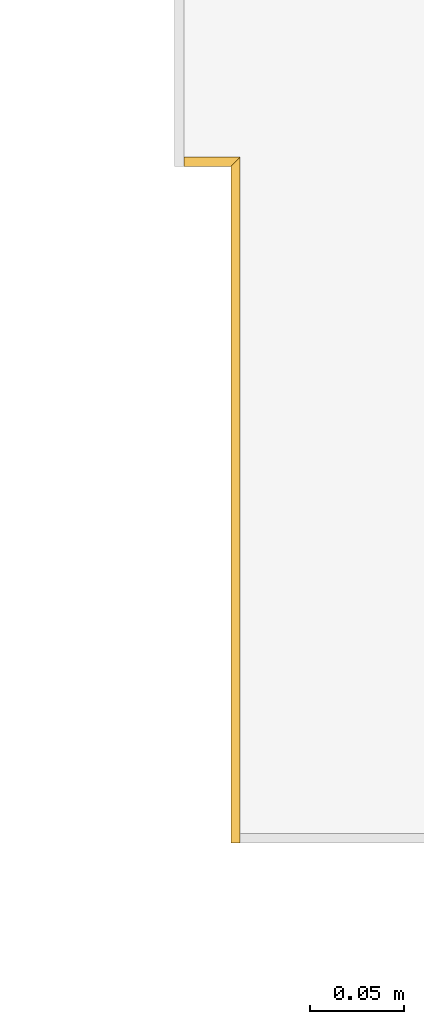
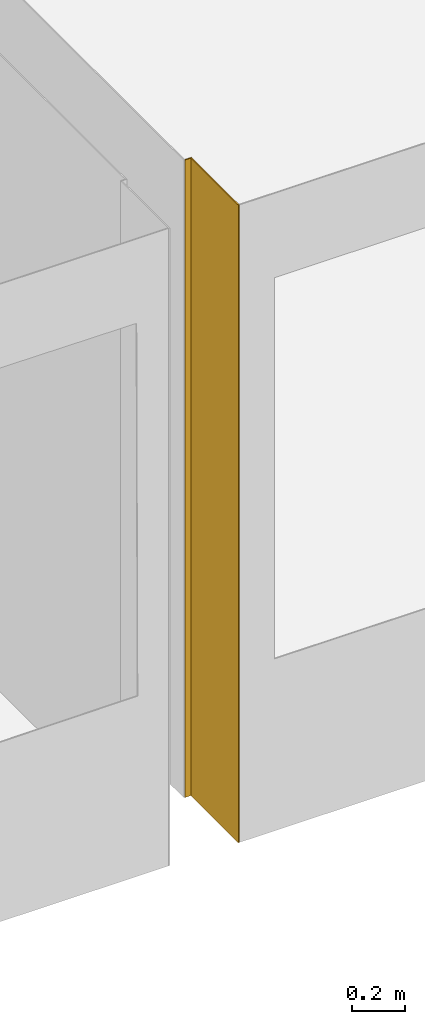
# One storey, part 18 of 33: 2 coverings.
"""IFC2X3 building model written with IfcOpenShell, lengths in millimetres."""

import ifcopenshell
import ifcopenshell.guid

model = None  # the IFC model being written
_history = None  # IfcOwnerHistory: only IFC2X3 demands one
_inside = {}  # id of a spatial element -> (the spatial element, [elements in it])
_under = {}  # id of a project, library or spatial element -> (it, [spatial elements below it])
_declared = {}  # id of a project -> (the project, [libraries it declares])
_typed = {}  # id of a type object -> (the type object, [elements of that type])
_made_of = {}  # id of a material, layer set ... -> (it, [elements and type objects made of it])


def new_model(schema):
    """Start an empty IFC model of exactly this schema.

    Asked for "IFC4X3", IfcOpenShell would pick the latest addendum, in which some entities
    have other attributes; the version numbers below select the first issue.
    IFC2X3 requires an IfcOwnerHistory on every rooted entity: one is made here for all.
    """
    global model, _history
    if schema == "IFC4X3":
        model = ifcopenshell.file(schema_version=(4, 3, 0, 0))
    else:
        model = ifcopenshell.file(schema=schema)
    _inside.clear()
    _under.clear()
    _declared.clear()
    _typed.clear()
    _made_of.clear()
    _history = None
    if model.schema == "IFC2X3":
        org = make("IfcOrganization", Name="unknown")
        user = make(
            "IfcPersonAndOrganization",
            ThePerson=make("IfcPerson", FamilyName="unknown"),
            TheOrganization=org,
        )
        app = make(
            "IfcApplication",
            ApplicationDeveloper=org,
            Version="unknown",
            ApplicationFullName="unknown",
            ApplicationIdentifier="unknown",
        )
        _history = make(
            "IfcOwnerHistory",
            OwningUser=user,
            OwningApplication=app,
            ChangeAction="ADDED",
            CreationDate=0,
        )
    return model


def make(cls, **values):
    """One entity of the class cls with the attributes given. An attribute that is None is left unset."""
    return model.create_entity(
        cls, **{name: value for name, value in values.items() if value is not None}
    )


def entity(cls, *values):
    """Any entity or typed value of the class cls, its attributes in the order of the schema. None: left unset."""
    e = model.create_entity(cls)
    for i, value in enumerate(values):
        if value is not None:
            e[i] = value
    return e


def rooted(cls, **values):
    """An entity with a GlobalId (a new one), such as an element, a storey or a relation."""
    return make(cls, GlobalId=ifcopenshell.guid.new(), OwnerHistory=_history, **values)


def si_unit(unit_type, name, prefix=None):
    """IfcSIUnit, for example si_unit("LENGTHUNIT", "METRE", prefix="MILLI")."""
    return make("IfcSIUnit", UnitType=unit_type, Prefix=prefix, Name=name)


def converted_unit(unit_type, name, factor, base, dimensions=None, offset=None):
    """IfcConversionBasedUnit, such as the inch: factor (a typed value) times the base unit."""
    return make(
        "IfcConversionBasedUnit"
        if offset is None
        else "IfcConversionBasedUnitWithOffset",
        ConversionOffset=offset,
        Dimensions=None
        if dimensions is None
        else entity("IfcDimensionalExponents", *dimensions),
        UnitType=unit_type,
        Name=name,
        ConversionFactor=make(
            "IfcMeasureWithUnit", ValueComponent=factor, UnitComponent=base
        ),
    )


def derived_unit(unit_type, elements):
    """IfcDerivedUnit: a product of units, each with its exponent."""
    return make(
        "IfcDerivedUnit",
        Elements=[
            make("IfcDerivedUnitElement", Unit=unit, Exponent=power)
            for unit, power in elements
        ],
        UnitType=unit_type,
    )


def money_unit(currency):
    """IfcMonetaryUnit."""
    return make("IfcMonetaryUnit", Currency=currency)


def assignment(units):
    """IfcUnitAssignment: the units of a project."""
    return None if units is None else make("IfcUnitAssignment", Units=units)


def point(xyz):
    """IfcCartesianPoint."""
    return None if xyz is None else make("IfcCartesianPoint", Coordinates=xyz)


def direction(xyz):
    """IfcDirection."""
    return None if xyz is None else make("IfcDirection", DirectionRatios=xyz)


def frame(location, z_axis=None, x_axis=None):
    """IfcAxis2Placement3D, a coordinate frame: its origin and axes. An axis left out is left unset."""
    return make(
        "IfcAxis2Placement3D",
        Location=point(location),
        Axis=direction(z_axis),
        RefDirection=direction(x_axis),
    )


def origin_with_axes():
    """The frame at (0, 0, 0) with the z axis (0, 0, 1) and the x axis (1, 0, 0) written out."""
    return frame((0.0, 0.0, 0.0), z_axis=(0.0, 0.0, 1.0), x_axis=(1.0, 0.0, 0.0))


def place(relative_to, where):
    """IfcLocalPlacement: puts the frame where relative to a parent placement (None: the world)."""
    return make(
        "IfcLocalPlacement", PlacementRelTo=relative_to, RelativePlacement=where
    )


def context(
    kind, dimensions, precision=None, world=None, true_north=None, identifier=None
):
    """IfcGeometricRepresentationContext, for example the 3D "Model" context."""
    return make(
        "IfcGeometricRepresentationContext",
        ContextIdentifier=identifier,
        ContextType=kind,
        CoordinateSpaceDimension=dimensions,
        Precision=precision,
        WorldCoordinateSystem=world,
        TrueNorth=true_north,
    )


def subcontext(parent, identifier, kind, view, scale=None):
    """IfcGeometricRepresentationSubContext, for example "Body" below "Model"."""
    return make(
        "IfcGeometricRepresentationSubContext",
        ContextIdentifier=identifier,
        ContextType=kind,
        ParentContext=parent,
        TargetScale=scale,
        TargetView=view,
    )


def project(units=None, contexts=None):
    """IfcProject with its units and contexts."""
    return rooted(
        "IfcProject",
        Name="project",
        RepresentationContexts=contexts,
        UnitsInContext=assignment(units),
    )


def spatial(cls, under=None, at=None, **own):
    """A site, building, storey or space (cls), placed at a placement, below another one or the project."""
    s = rooted(cls, ObjectPlacement=at, **own)
    if under is not None:
        _under.setdefault(under.id(), (under, []))[1].append(s)
    return s


def polyline(points):
    """IfcPolyline through the points."""
    return make("IfcPolyline", Points=[point(p) for p in points])


def outline(outer, holes=None, kind="AREA"):
    """IfcArbitraryClosedProfileDef: a profile drawn as a closed curve; with holes, ...WithVoids."""
    if holes is None:
        return make("IfcArbitraryClosedProfileDef", ProfileType=kind, OuterCurve=outer)
    return make(
        "IfcArbitraryProfileDefWithVoids",
        ProfileType=kind,
        OuterCurve=outer,
        InnerCurves=holes,
    )


def extrude(swept, where, along, depth):
    """IfcExtrudedAreaSolid: the profile swept, set in the frame where, extruded along a direction by depth."""
    return make(
        "IfcExtrudedAreaSolid",
        SweptArea=swept,
        Position=where,
        ExtrudedDirection=direction(along),
        Depth=depth,
    )


def shape(context_of_items, identifier, shape_type, items):
    """IfcShapeRepresentation: the items that make up one representation, for example the "Body"."""
    return make(
        "IfcShapeRepresentation",
        ContextOfItems=context_of_items,
        RepresentationIdentifier=identifier,
        RepresentationType=shape_type,
        Items=items,
    )


def material(Name=None, Category=None):
    """IfcMaterial."""
    return make("IfcMaterial", Name=Name, Category=Category)


def made_of(thing, what):
    """Note that an element or type object is made of a material, layer set ...; save() writes the relation."""
    if what is not None:
        _made_of.setdefault(what.id(), (what, []))[1].append(thing)
    return thing


def type_object(cls, material=None, **own):
    """A type object (cls), such as IfcWallType, which elements share."""
    return made_of(rooted(cls, **own), material)


def element(
    cls,
    number,
    at=None,
    inside=None,
    cuts=None,
    type_object=None,
    material=None,
    context=None,
    identifier="Body",
    shape_type=None,
    held_by="IfcProductDefinitionShape",
    body=None,
    shapes=None,
    **own,
):
    """One element of the class cls, such as IfcWall. Its Tag is "e" and its number.

    at: its placement. inside: the storey or other place that contains it. cuts: it is an
    opening in that element (IfcRelVoidsElement). A single representation is given by context,
    identifier, shape_type and body (its items); several are given by shapes. held_by: the class
    of the entity that holds the representations. save() writes the other relations.
    """
    e = rooted(cls, Tag="e%d" % number, ObjectPlacement=at, **own)
    if body is not None:
        shapes = [shape(context, identifier, shape_type, body)]
    if shapes is not None:
        e.Representation = make(held_by, Representations=shapes)
    if inside is not None:
        _inside.setdefault(inside.id(), (inside, []))[1].append(e)
    if cuts is not None:
        rooted(
            "IfcRelVoidsElement", RelatingBuildingElement=cuts, RelatedOpeningElement=e
        )
    if type_object is not None:
        _typed.setdefault(type_object.id(), (type_object, []))[1].append(e)
    return made_of(e, material)


def aggregate(whole, parts):
    """IfcRelAggregates: a whole, such as a stair, and the parts it consists of."""
    return rooted("IfcRelAggregates", RelatingObject=whole, RelatedObjects=parts)


def save(model, path):
    """Write the relations noted so far, then the file.

    IfcRelAggregates (storeys below a building ...), IfcRelContainedInSpatialStructure (elements
    in a storey), IfcRelDefinesByType, IfcRelAssociatesMaterial and IfcRelDeclares: one each for
    every whole, place, type object, material and project.
    """
    for whole, parts in _under.values():
        aggregate(whole, parts)
    for where, things in _inside.values():
        rooted(
            "IfcRelContainedInSpatialStructure",
            RelatedElements=things,
            RelatingStructure=where,
        )
    for kind, things in _typed.values():
        rooted("IfcRelDefinesByType", RelatedObjects=things, RelatingType=kind)
    for what, things in _made_of.values():
        rooted("IfcRelAssociatesMaterial", RelatedObjects=things, RelatingMaterial=what)
    for by, libraries in _declared.values():
        rooted("IfcRelDeclares", RelatingContext=by, RelatedDefinitions=libraries)
    model.write(path)


model = new_model("IFC2X3")

# Units and contexts
model_context = context("Model", 3, precision=0.01, world=origin_with_axes(), true_north=direction((0.0, 1.0)))
body_context = subcontext(model_context, "Body", "Model", "MODEL_VIEW")
ifc_project = project(units=[si_unit("LENGTHUNIT", "METRE", prefix="MILLI"), si_unit("AREAUNIT", "SQUARE_METRE"), si_unit("VOLUMEUNIT", "CUBIC_METRE"), converted_unit("PLANEANGLEUNIT", "DEGREE", entity("IfcPlaneAngleMeasure", 0.0174532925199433), si_unit("PLANEANGLEUNIT", "RADIAN"), dimensions=[0, 0, 0, 0, 0, 0, 0]), money_unit("EUR"), converted_unit("TIMEUNIT", "Year", entity("IfcTimeMeasure", 31556926.0), si_unit("TIMEUNIT", "SECOND"), dimensions=[0, 0, 1, 0, 0, 0, 0]), si_unit("MASSUNIT", "GRAM", prefix="KILO"), si_unit("THERMODYNAMICTEMPERATUREUNIT", "DEGREE_CELSIUS"), si_unit("LUMINOUSINTENSITYUNIT", "LUMEN"), si_unit("ENERGYUNIT", "JOULE", prefix="MEGA"), derived_unit("THERMALCONDUCTANCEUNIT", [(si_unit("POWERUNIT", "WATT"), 1), (si_unit("LENGTHUNIT", "METRE"), -1), (si_unit("THERMODYNAMICTEMPERATUREUNIT", "KELVIN"), -1)]), derived_unit("SPECIFICHEATCAPACITYUNIT", [(si_unit("ENERGYUNIT", "JOULE"), 1), (si_unit("MASSUNIT", "GRAM", prefix="KILO"), -1), (si_unit("THERMODYNAMICTEMPERATUREUNIT", "KELVIN"), -1)]), derived_unit("MASSDENSITYUNIT", [(si_unit("MASSUNIT", "GRAM", prefix="KILO"), 1), (si_unit("VOLUMEUNIT", "CUBIC_METRE"), -1)])], contexts=[model_context])

# Site, building, storey
site_placement = place(None, origin_with_axes())
site = spatial("IfcSite", under=ifc_project, at=site_placement, Name="Paldiski mnt 245/1, Tallinn, Harjumaa", CompositionType="COMPLEX")
building_placement = place(site_placement, origin_with_axes())
building = spatial("IfcBuilding", under=site, at=building_placement, Name="RKAS Hoone üldnimetus (kasutust iseloomustav) -> IFC Project Manager -> SOLIBRI", CompositionType="ELEMENT")
storey_placement = place(building_placement, origin_with_axes())
storey = spatial("IfcBuildingStorey", under=building, at=storey_placement, Name="Esimene korrus", CompositionType="ELEMENT", Elevation=0.0)

# Coverings
ifc_material = material(Name="SA- Värv SM12(tolmutõke)")
covering_type = type_object("IfcCoveringType", Name="SA- Värv SM12(tolmutõke) 5", PredefinedType="CLADDING")
covering_1_placement = place(storey_placement, frame((-23340.00000000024, -12150.084087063, 0.0), z_axis=(0.0, 0.0, 1.0), x_axis=(1.0, 0.0, 0.0)))
element("IfcCovering", 1, at=covering_1_placement, inside=storey, type_object=covering_type, material=ifc_material, Name="SM12", PredefinedType="CLADDING", context=body_context, shape_type="SweptSolid", body=[
    extrude(outline(polyline([(4.999999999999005, 0.0), (29.99999999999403, 0.0), (34.99999999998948, 5.000000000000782), (4.999999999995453, 5.000000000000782), (4.999999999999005, 0.0)])), origin_with_axes(), (0.0, 0.0, 1.0), 2950.0),
])
covering_2_placement = place(storey_placement, frame((-23310.00000000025, -12150.08408706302, 0.0), z_axis=(0.0, 0.0, 1.0), x_axis=(0.0, -1.0, 0.0)))
element("IfcCovering", 2, at=covering_2_placement, inside=storey, type_object=covering_type, material=ifc_material, Name="SM12", PredefinedType="CLADDING", context=body_context, shape_type="SweptSolid", body=[
    extrude(outline(polyline([(0.0, 0.0), (360.0002140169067, 0.0), (360.000214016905, 4.999999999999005), (-4.999999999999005, 4.999999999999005), (0.0, 0.0)])), origin_with_axes(), (0.0, 0.0, 1.0), 2950.0),
])

save(model, "model.ifc")
